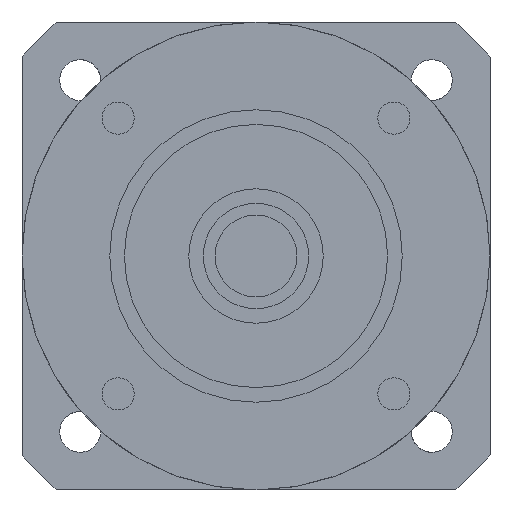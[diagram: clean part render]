
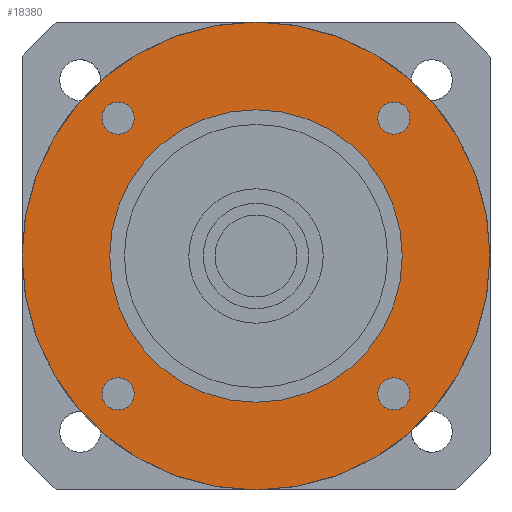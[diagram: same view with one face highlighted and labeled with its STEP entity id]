
A CAD part, left-side view. The second image highlights one B-rep face of the part: STEP entity #18380.
In plain terms, the highlighted planar face has unit normal (-1, 0, 0) as drawn and (0, 0, -1) by its records, which use the part's own axes.
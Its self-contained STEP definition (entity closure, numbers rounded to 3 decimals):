
#13700=CARTESIAN_POINT('',(23.571,-26.321,-42.));
#13710=VERTEX_POINT('',#13700);
#13740=CARTESIAN_POINT('',(23.571,-23.571,-42.));
#13750=DIRECTION('',(0.,0.,1.));
#13760=DIRECTION('',(0.,-1.,0.));
#13770=AXIS2_PLACEMENT_3D('',#13740,#13750,#13760);
#13780=CIRCLE('',#13770,2.75);
#13790=CARTESIAN_POINT('',(23.571,-20.821,-42.));
#13800=VERTEX_POINT('',#13790);
#13810=EDGE_CURVE('',#13710,#13800,#13780,.T.);
#17400=CARTESIAN_POINT('',(-40.,0.,-42.));
#17410=VERTEX_POINT('',#17400);
#17440=CARTESIAN_POINT('',(0.,0.,-42.));
#17450=DIRECTION('',(0.,0.,-1.));
#17460=DIRECTION('',(1.,0.,0.));
#17470=AXIS2_PLACEMENT_3D('',#17440,#17450,#17460);
#17480=CIRCLE('',#17470,40.);
#17490=CARTESIAN_POINT('',(40.,0.,-42.));
#17500=VERTEX_POINT('',#17490);
#17510=EDGE_CURVE('',#17410,#17500,#17480,.T.);
#17630=CARTESIAN_POINT('',(0.,0.,-42.));
#17640=DIRECTION('',(0.,0.,1.));
#17650=DIRECTION('',(1.,0.,0.));
#17660=AXIS2_PLACEMENT_3D('',#17630,#17640,#17650);
#17670=PLANE('',#17660);
#17680=CARTESIAN_POINT('',(23.571,23.571,-42.));
#17690=DIRECTION('',(0.,0.,1.));
#17700=DIRECTION('',(0.,-1.,0.));
#17710=AXIS2_PLACEMENT_3D('',#17680,#17690,#17700);
#17720=CIRCLE('',#17710,2.75);
#17730=CARTESIAN_POINT('',(23.571,20.821,-42.));
#17740=VERTEX_POINT('',#17730);
#17750=CARTESIAN_POINT('',(23.571,26.321,-42.));
#17760=VERTEX_POINT('',#17750);
#17770=EDGE_CURVE('',#17740,#17760,#17720,.T.);
#17780=ORIENTED_EDGE('',*,*,#17770,.T.);
#17790=EDGE_CURVE('',#17760,#17740,#17720,.T.);
#17800=ORIENTED_EDGE('',*,*,#17790,.T.);
#17810=EDGE_LOOP('',(#17800,#17780));
#17820=FACE_BOUND('',#17810,.T.);
#17830=CARTESIAN_POINT('',(-23.571,23.571,-42.));
#17840=DIRECTION('',(0.,0.,1.));
#17850=DIRECTION('',(0.,-1.,0.));
#17860=AXIS2_PLACEMENT_3D('',#17830,#17840,#17850);
#17870=CIRCLE('',#17860,2.75);
#17880=CARTESIAN_POINT('',(-23.571,20.821,-42.));
#17890=VERTEX_POINT('',#17880);
#17900=CARTESIAN_POINT('',(-23.571,26.321,-42.));
#17910=VERTEX_POINT('',#17900);
#17920=EDGE_CURVE('',#17890,#17910,#17870,.T.);
#17930=ORIENTED_EDGE('',*,*,#17920,.T.);
#17940=EDGE_CURVE('',#17910,#17890,#17870,.T.);
#17950=ORIENTED_EDGE('',*,*,#17940,.T.);
#17960=EDGE_LOOP('',(#17950,#17930));
#17970=FACE_BOUND('',#17960,.T.);
#17980=CARTESIAN_POINT('',(-23.571,-23.571,-42.));
#17990=DIRECTION('',(0.,0.,1.));
#18000=DIRECTION('',(0.,-1.,0.));
#18010=AXIS2_PLACEMENT_3D('',#17980,#17990,#18000);
#18020=CIRCLE('',#18010,2.75);
#18030=CARTESIAN_POINT('',(-23.571,-26.321,-42.));
#18040=VERTEX_POINT('',#18030);
#18050=CARTESIAN_POINT('',(-23.571,-20.821,-42.));
#18060=VERTEX_POINT('',#18050);
#18070=EDGE_CURVE('',#18040,#18060,#18020,.T.);
#18080=ORIENTED_EDGE('',*,*,#18070,.T.);
#18090=EDGE_CURVE('',#18060,#18040,#18020,.T.);
#18100=ORIENTED_EDGE('',*,*,#18090,.T.);
#18110=EDGE_LOOP('',(#18100,#18080));
#18120=FACE_BOUND('',#18110,.T.);
#18130=CARTESIAN_POINT('',(0.,0.,
-42.));
#18140=DIRECTION('',(0.,0.,1.));
#18150=DIRECTION('',(1.,0.,0.));
#18160=AXIS2_PLACEMENT_3D('',#18130,#18140,#18150);
#18170=CIRCLE('',#18160,25.);
#18180=CARTESIAN_POINT('',(25.,0.,-42.));
#18190=VERTEX_POINT('',#18180);
#18200=CARTESIAN_POINT('',(-25.,0.,-42.));
#18210=VERTEX_POINT('',#18200);
#18220=EDGE_CURVE('',#18190,#18210,#18170,.T.);
#18230=ORIENTED_EDGE('',*,*,#18220,.T.);
#18240=EDGE_CURVE('',#18210,#18190,#18170,.T.);
#18250=ORIENTED_EDGE('',*,*,#18240,.T.);
#18260=EDGE_LOOP('',(#18250,#18230));
#18270=FACE_BOUND('',#18260,.T.);
#18280=ORIENTED_EDGE('',*,*,#13810,.T.);
#18290=EDGE_CURVE('',#13800,#13710,#13780,.T.);
#18300=ORIENTED_EDGE('',*,*,#18290,.T.);
#18310=EDGE_LOOP('',(#18300,#18280));
#18320=FACE_BOUND('',#18310,.T.);
#18330=EDGE_CURVE('',#17500,#17410,#17480,.T.);
#18340=ORIENTED_EDGE('',*,*,#18330,.T.);
#18350=ORIENTED_EDGE('',*,*,#17510,.T.);
#18360=EDGE_LOOP('',(#18350,#18340));
#18370=FACE_OUTER_BOUND('',#18360,.T.);
#18380=ADVANCED_FACE('',(#17820,#17970,#18120,#18270,#18320,#18370),
#17670,.F.);
